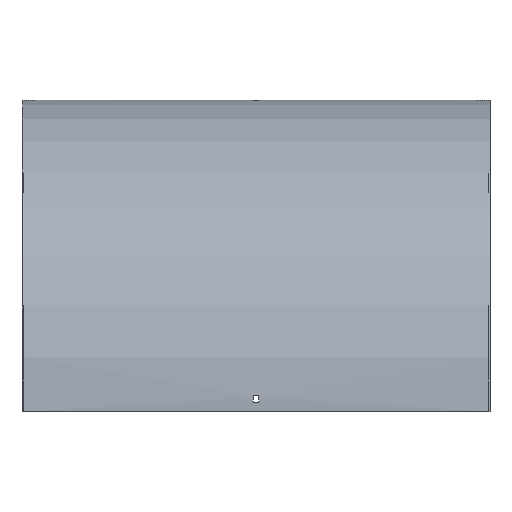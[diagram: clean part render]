
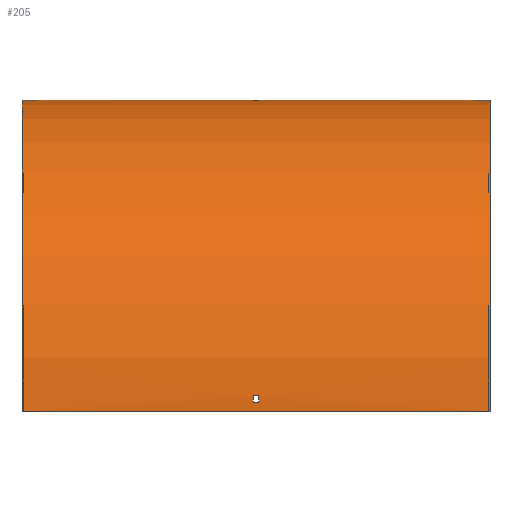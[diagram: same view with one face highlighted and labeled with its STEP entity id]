
A CAD part, top view. The second image highlights one B-rep face of the part: STEP entity #205.
In plain terms, the highlighted cylindrical face has radius 401.5 mm (diameter 803 mm), a partial arc.
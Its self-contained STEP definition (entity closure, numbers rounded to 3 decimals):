
#9 = DIRECTION ( 'NONE',  ( 1., 0., 0. ) ) ;
#15 = CARTESIAN_POINT ( 'NONE',  ( -301.5, -401.5, 401.5 ) ) ;
#24 = CARTESIAN_POINT ( 'NONE',  ( 3.25, -401.5, 0. ) ) ;
#25 = CARTESIAN_POINT ( 'NONE',  ( 301.5, -401.5, 401.5 ) ) ;
#34 = EDGE_CURVE ( 'NONE', #569, #409, #114, .T. ) ;
#42 = DIRECTION ( 'NONE',  ( 1., 0., 0. ) ) ;
#43 = CARTESIAN_POINT ( 'NONE',  ( 3.25, -401.5, 0. ) ) ;
#49 = FACE_BOUND ( 'NONE', #360, .T. ) ;
#54 = ORIENTED_EDGE ( 'NONE', *, *, #63, .T. ) ;
#55 = CARTESIAN_POINT ( 'NONE',  ( 301.5, -389.5, 401.321 ) ) ;
#57 = VECTOR ( 'NONE', #42, 1000. ) ;
#60 = CARTESIAN_POINT ( 'NONE',  ( 3.25, -0.55, 21. ) ) ;
#61 = CARTESIAN_POINT ( 'NONE',  ( 301.5, 0., 0. ) ) ;
#62 = CARTESIAN_POINT ( 'NONE',  ( 301.5, -401.5, 0. ) ) ;
#63 = EDGE_CURVE ( 'NONE', #283, #569, #113, .T. ) ;
#67 = DIRECTION ( 'NONE',  ( -1., 0., 0. ) ) ;
#71 = ORIENTED_EDGE ( 'NONE', *, *, #530, .F. ) ;
#83 = VERTEX_POINT ( 'NONE', #15 ) ;
#88 = ORIENTED_EDGE ( 'NONE', *, *, #141, .F. ) ;
#91 = ORIENTED_EDGE ( 'NONE', *, *, #383, .T. ) ;
#109 = CARTESIAN_POINT ( 'NONE',  ( 3.25, -380.5, 400.95 ) ) ;
#113 = CIRCLE ( 'NONE', #338, 401.5 ) ;
#114 = LINE ( 'NONE', #349, #459 ) ;
#135 = CARTESIAN_POINT ( 'NONE',  ( -301.5, -401.5, 0. ) ) ;
#136 = VERTEX_POINT ( 'NONE', #456 ) ;
#141 = EDGE_CURVE ( 'NONE', #471, #267, #218, .T. ) ;
#142 = DIRECTION ( 'NONE',  ( -1., 0., 0. ) ) ;
#152 = VECTOR ( 'NONE', #224, 1000. ) ;
#154 = CARTESIAN_POINT ( 'NONE',  ( -301.5, 0., 0. ) ) ;
#159 = DIRECTION ( 'NONE',  ( -1., 0., 0. ) ) ;
#164 = VERTEX_POINT ( 'NONE', #225 ) ;
#168 = EDGE_CURVE ( 'NONE', #564, #83, #288, .T. ) ;
#169 = EDGE_CURVE ( 'NONE', #267, #83, #504, .T. ) ;
#181 = LINE ( 'NONE', #55, #57 ) ;
#186 = FACE_BOUND ( 'NONE', #406, .T. ) ;
#188 = CARTESIAN_POINT ( 'NONE',  ( 301.5, -401.5, 0. ) ) ;
#189 = VECTOR ( 'NONE', #428, 1000. ) ;
#198 = CARTESIAN_POINT ( 'NONE',  ( 301.5, -380.5, 400.95 ) ) ;
#199 = AXIS2_PLACEMENT_3D ( 'NONE', #582, #159, #348 ) ;
#203 = CYLINDRICAL_SURFACE ( 'NONE', #477, 401.5 ) ;
#205 = ADVANCED_FACE ( 'NONE', ( #461, #49, #186 ), #203, .T. ) ;
#218 = CIRCLE ( 'NONE', #299, 401.5 ) ;
#219 = VERTEX_POINT ( 'NONE', #109 ) ;
#224 = DIRECTION ( 'NONE',  ( -1., 0., 0. ) ) ;
#225 = CARTESIAN_POINT ( 'NONE',  ( -3.25, -0.179, 12. ) ) ;
#229 = DIRECTION ( 'NONE',  ( -1., 0., 0. ) ) ;
#235 = DIRECTION ( 'NONE',  ( 0., 0., -1. ) ) ;
#238 = ORIENTED_EDGE ( 'NONE', *, *, #34, .T. ) ;
#244 = EDGE_CURVE ( 'NONE', #219, #136, #294, .T. ) ;
#250 = LINE ( 'NONE', #324, #189 ) ;
#253 = VECTOR ( 'NONE', #577, 1000. ) ;
#265 = AXIS2_PLACEMENT_3D ( 'NONE', #369, #563, #323 ) ;
#267 = VERTEX_POINT ( 'NONE', #25 ) ;
#281 = LINE ( 'NONE', #61, #152 ) ;
#283 = VERTEX_POINT ( 'NONE', #351 ) ;
#288 = CIRCLE ( 'NONE', #355, 401.5 ) ;
#293 = CARTESIAN_POINT ( 'NONE',  ( 3.25, -389.5, 401.321 ) ) ;
#294 = LINE ( 'NONE', #198, #253 ) ;
#299 = AXIS2_PLACEMENT_3D ( 'NONE', #188, #9, #332 ) ;
#305 = DIRECTION ( 'NONE',  ( 1., 0., 0. ) ) ;
#320 = DIRECTION ( 'NONE',  ( 1., 0., 0. ) ) ;
#323 = DIRECTION ( 'NONE',  ( 0., 1., 0. ) ) ;
#324 = CARTESIAN_POINT ( 'NONE',  ( 301.5, -0.179, 12. ) ) ;
#327 = VERTEX_POINT ( 'NONE', #293 ) ;
#330 = VERTEX_POINT ( 'NONE', #572 ) ;
#332 = DIRECTION ( 'NONE',  ( 0., 0., -1. ) ) ;
#333 = ORIENTED_EDGE ( 'NONE', *, *, #527, .F. ) ;
#338 = AXIS2_PLACEMENT_3D ( 'NONE', #24, #305, #485 ) ;
#339 = ORIENTED_EDGE ( 'NONE', *, *, #443, .T. ) ;
#342 = DIRECTION ( 'NONE',  ( -1., 0., 0. ) ) ;
#346 = CARTESIAN_POINT ( 'NONE',  ( 301.5, 0., 0. ) ) ;
#348 = DIRECTION ( 'NONE',  ( 0., 0., 1. ) ) ;
#349 = CARTESIAN_POINT ( 'NONE',  ( 301.5, -0.55, 21. ) ) ;
#351 = CARTESIAN_POINT ( 'NONE',  ( 3.25, -0.179, 12. ) ) ;
#355 = AXIS2_PLACEMENT_3D ( 'NONE', #135, #320, #235 ) ;
#360 = EDGE_LOOP ( 'NONE', ( #238, #339, #91, #54 ) ) ;
#368 = EDGE_LOOP ( 'NONE', ( #591, #394, #88, #510 ) ) ;
#369 = CARTESIAN_POINT ( 'NONE',  ( -3.25, -401.5, 0. ) ) ;
#371 = CARTESIAN_POINT ( 'NONE',  ( 301.5, -401.5, 401.5 ) ) ;
#383 = EDGE_CURVE ( 'NONE', #164, #283, #250, .T. ) ;
#388 = AXIS2_PLACEMENT_3D ( 'NONE', #43, #229, #411 ) ;
#394 = ORIENTED_EDGE ( 'NONE', *, *, #169, .F. ) ;
#398 = CIRCLE ( 'NONE', #265, 401.5 ) ;
#406 = EDGE_LOOP ( 'NONE', ( #71, #598, #509, #333 ) ) ;
#409 = VERTEX_POINT ( 'NONE', #521 ) ;
#411 = DIRECTION ( 'NONE',  ( 0., 0., 1. ) ) ;
#420 = EDGE_CURVE ( 'NONE', #471, #564, #281, .T. ) ;
#425 = EDGE_CURVE ( 'NONE', #327, #219, #490, .T. ) ;
#428 = DIRECTION ( 'NONE',  ( 1., 0., 0. ) ) ;
#429 = DIRECTION ( 'NONE',  ( 0., 0., 1. ) ) ;
#433 = VECTOR ( 'NONE', #142, 1000. ) ;
#443 = EDGE_CURVE ( 'NONE', #409, #164, #458, .T. ) ;
#456 = CARTESIAN_POINT ( 'NONE',  ( -3.25, -380.5, 400.95 ) ) ;
#458 = CIRCLE ( 'NONE', #199, 401.5 ) ;
#459 = VECTOR ( 'NONE', #67, 1000. ) ;
#461 = FACE_OUTER_BOUND ( 'NONE', #368, .T. ) ;
#471 = VERTEX_POINT ( 'NONE', #346 ) ;
#477 = AXIS2_PLACEMENT_3D ( 'NONE', #62, #342, #429 ) ;
#485 = DIRECTION ( 'NONE',  ( 0., 0., -1. ) ) ;
#490 = CIRCLE ( 'NONE', #388, 401.5 ) ;
#504 = LINE ( 'NONE', #371, #433 ) ;
#509 = ORIENTED_EDGE ( 'NONE', *, *, #425, .F. ) ;
#510 = ORIENTED_EDGE ( 'NONE', *, *, #420, .T. ) ;
#521 = CARTESIAN_POINT ( 'NONE',  ( -3.25, -0.55, 21. ) ) ;
#527 = EDGE_CURVE ( 'NONE', #330, #327, #181, .T. ) ;
#530 = EDGE_CURVE ( 'NONE', #136, #330, #398, .T. ) ;
#563 = DIRECTION ( 'NONE',  ( 1., 0., 0. ) ) ;
#564 = VERTEX_POINT ( 'NONE', #154 ) ;
#569 = VERTEX_POINT ( 'NONE', #60 ) ;
#572 = CARTESIAN_POINT ( 'NONE',  ( -3.25, -389.5, 401.321 ) ) ;
#577 = DIRECTION ( 'NONE',  ( -1., 0., 0. ) ) ;
#582 = CARTESIAN_POINT ( 'NONE',  ( -3.25, -401.5, 0. ) ) ;
#591 = ORIENTED_EDGE ( 'NONE', *, *, #168, .T. ) ;
#598 = ORIENTED_EDGE ( 'NONE', *, *, #244, .F. ) ;
